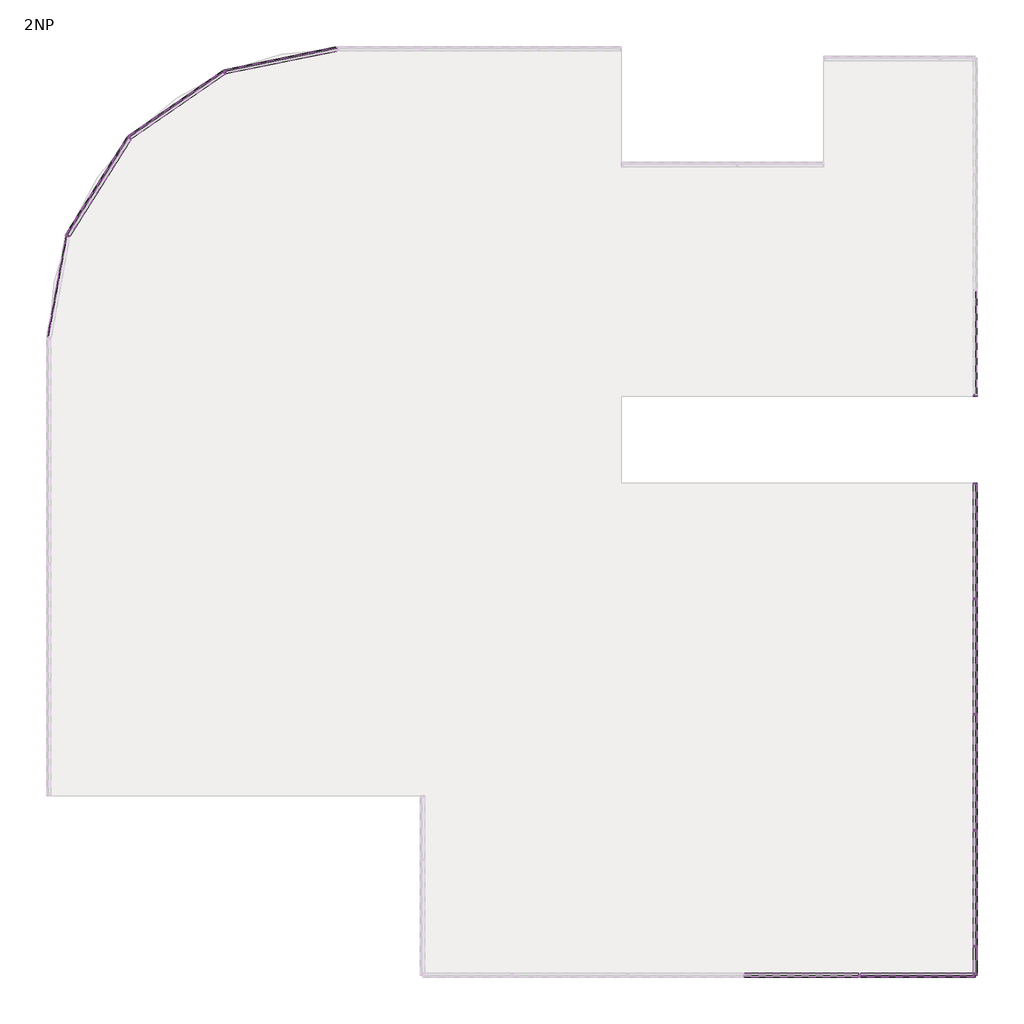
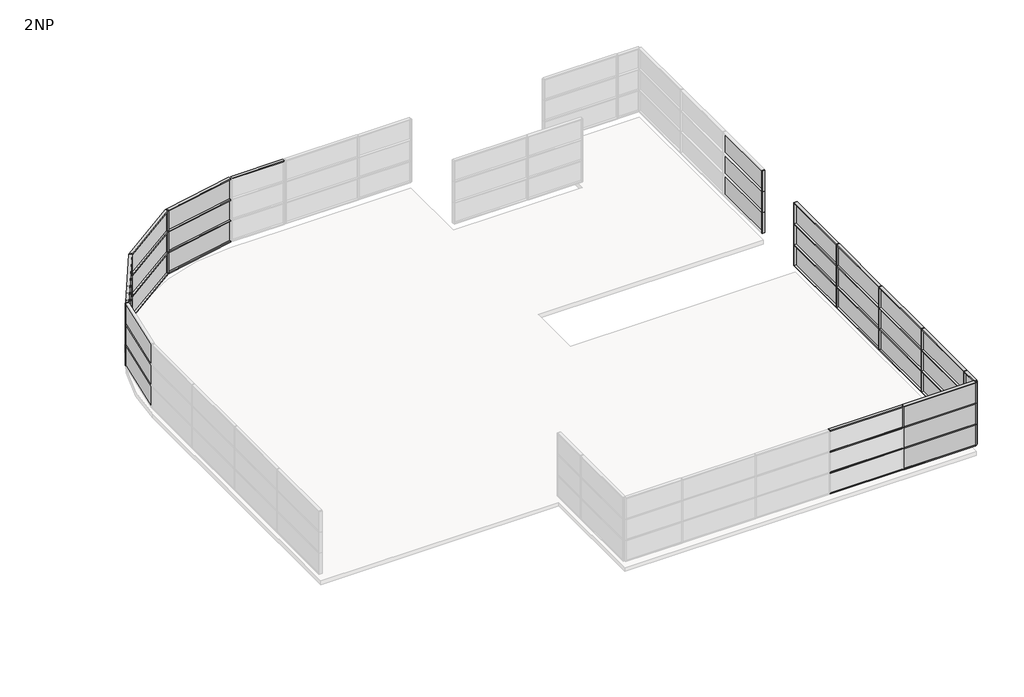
# One storey, part 2 of 4: 75 members, 33 plates.
"""IFC4 building model written with IfcOpenShell, lengths in millimetres."""

from ifc_helpers import new_model, si_unit, origin, place, context, project, spatial, transform, mapped, element, save
from components import rectangular_mullion_50_x_150mm_d99dc9be, rectangular_mullion_50_x_150mm_6588f46c, rectangular_mullion_50_x_150mm_a037c29c, rectangular_mullion_50_x_150mm_c2546fd4, rectangular_mullion_50_x_150mm_116cff39, rectangular_mullion_50_x_150mm_6d604593, rectangular_mullion_50_x_150mm_99029072, rectangular_mullion_50_x_150mm_662445cf, system_panel_glazed_8e9402eb, system_panel_glazed_89ac83a7, system_panel_glazed_5566c609, system_panel_glazed_8c18451d, system_panel_glazed_f47374c1, system_panel_glazed_c3dc520e, system_panel_glazed_01c601c5

model = new_model("IFC4")

# Units and contexts
model_context = context("Model", 3, world=origin())
ifc_project = project(units=[si_unit("LENGTHUNIT", "METRE", prefix="MILLI")], contexts=[model_context])

# Site, building, storey
site = spatial("IfcSite", under=ifc_project)
building = spatial("IfcBuilding", under=site)
storey = spatial("IfcBuildingStorey", under=building, Name="2NP", Elevation=8000.0)

# Members
placement = place(None, origin())
rectangular_mullion_50_x_150mm_shape = rectangular_mullion_50_x_150mm_d99dc9be(model_context)
element("IfcMember", 1, ObjectType="Rectangular Mullion : 50 x 150mm", at=placement, inside=storey, context=model_context, shape_type="MappedRepresentation", body=[
    mapped(rectangular_mullion_50_x_150mm_shape, transform((13503.2660975, -10624.0160434, 9600.0), x_axis=(0.0, -1.0, 0.0), y_axis=(1.0, 0.0, 0.0), z_axis=(0.0, 0.0, 1.0))),
])
element("IfcMember", 2, ObjectType="Rectangular Mullion : 50 x 150mm", at=placement, inside=storey, context=model_context, shape_type="MappedRepresentation", body=[
    mapped(rectangular_mullion_50_x_150mm_shape, transform((13503.2660975, -10624.0160434, 10800.0), x_axis=(0.0, -1.0, 0.0), y_axis=(1.0, 0.0, 0.0), z_axis=(0.0, 0.0, 1.0))),
])
element("IfcMember", 3, ObjectType="Rectangular Mullion : 50 x 150mm", at=placement, inside=storey, context=model_context, shape_type="MappedRepresentation", body=[
    mapped(rectangular_mullion_50_x_150mm_shape, transform((13503.2660975, -10624.0160434, 12000.0), x_axis=(0.0, -1.0, 0.0), y_axis=(1.0, 0.0, 0.0), z_axis=(0.0, 0.0, 1.0))),
])
element("IfcMember", 4, ObjectType="Rectangular Mullion : 50 x 150mm", at=placement, inside=storey, context=model_context, shape_type="MappedRepresentation", body=[
    mapped(rectangular_mullion_50_x_150mm_shape, transform((13503.2660975, -14624.0160434, 9600.0), x_axis=(0.0, -1.0, 0.0), y_axis=(1.0, 0.0, 0.0), z_axis=(0.0, 0.0, 1.0))),
])
element("IfcMember", 5, ObjectType="Rectangular Mullion : 50 x 150mm", at=placement, inside=storey, context=model_context, shape_type="MappedRepresentation", body=[
    mapped(rectangular_mullion_50_x_150mm_shape, transform((13503.2660975, -14624.0160434, 10800.0), x_axis=(0.0, -1.0, 0.0), y_axis=(1.0, 0.0, 0.0), z_axis=(0.0, 0.0, 1.0))),
])
element("IfcMember", 6, ObjectType="Rectangular Mullion : 50 x 150mm", at=placement, inside=storey, context=model_context, shape_type="MappedRepresentation", body=[
    mapped(rectangular_mullion_50_x_150mm_shape, transform((13503.2660975, -14624.0160434, 12000.0), x_axis=(0.0, -1.0, 0.0), y_axis=(1.0, 0.0, 0.0), z_axis=(0.0, 0.0, 1.0))),
])
element("IfcMember", 7, ObjectType="Rectangular Mullion : 50 x 150mm", at=placement, inside=storey, context=model_context, shape_type="MappedRepresentation", body=[
    mapped(rectangular_mullion_50_x_150mm_shape, transform((13503.2660975, -18624.0160434, 9600.0), x_axis=(0.0, -1.0, 0.0), y_axis=(1.0, 0.0, 0.0), z_axis=(0.0, 0.0, 1.0))),
])
element("IfcMember", 8, ObjectType="Rectangular Mullion : 50 x 150mm", at=placement, inside=storey, context=model_context, shape_type="MappedRepresentation", body=[
    mapped(rectangular_mullion_50_x_150mm_shape, transform((13503.2660975, -18624.0160434, 10800.0), x_axis=(0.0, -1.0, 0.0), y_axis=(1.0, 0.0, 0.0), z_axis=(0.0, 0.0, 1.0))),
])
element("IfcMember", 9, ObjectType="Rectangular Mullion : 50 x 150mm", at=placement, inside=storey, context=model_context, shape_type="MappedRepresentation", body=[
    mapped(rectangular_mullion_50_x_150mm_shape, transform((13503.2660975, -18624.0160434, 12000.0), x_axis=(0.0, -1.0, 0.0), y_axis=(1.0, 0.0, 0.0), z_axis=(0.0, 0.0, 1.0))),
])
element("IfcMember", 10, ObjectType="Rectangular Mullion : 50 x 150mm", at=placement, inside=storey, context=model_context, shape_type="MappedRepresentation", body=[
    mapped(rectangular_mullion_50_x_150mm_shape, transform((13503.2660975, -22624.0160434, 9600.0), x_axis=(0.0, -1.0, 0.0), y_axis=(1.0, 0.0, 0.0), z_axis=(0.0, 0.0, 1.0))),
])
element("IfcMember", 11, ObjectType="Rectangular Mullion : 50 x 150mm", at=placement, inside=storey, context=model_context, shape_type="MappedRepresentation", body=[
    mapped(rectangular_mullion_50_x_150mm_shape, transform((13503.2660975, -22624.0160434, 10800.0), x_axis=(0.0, -1.0, 0.0), y_axis=(1.0, 0.0, 0.0), z_axis=(0.0, 0.0, 1.0))),
])
element("IfcMember", 12, ObjectType="Rectangular Mullion : 50 x 150mm", at=placement, inside=storey, context=model_context, shape_type="MappedRepresentation", body=[
    mapped(rectangular_mullion_50_x_150mm_shape, transform((13503.2660975, -22624.0160434, 12000.0), x_axis=(0.0, -1.0, 0.0), y_axis=(1.0, 0.0, 0.0), z_axis=(0.0, 0.0, 1.0))),
])
element("IfcMember", 13, ObjectType="Rectangular Mullion : 50 x 150mm", at=placement, inside=storey, context=model_context, shape_type="MappedRepresentation", body=[
    mapped(rectangular_mullion_50_x_150mm_shape, transform((9503.2660975, -23624.0160434, 12000.0), x_axis=(-1.0, 0.0, 0.0), y_axis=(0.0, -1.0, 0.0), z_axis=(0.0, 0.0, 1.0))),
])
rectangular_mullion_50_x_150mm_2_shape = rectangular_mullion_50_x_150mm_6588f46c(model_context)
element("IfcMember", 14, ObjectType="Rectangular Mullion : 50 x 150mm", at=placement, inside=storey, context=model_context, shape_type="MappedRepresentation", body=[
    mapped(rectangular_mullion_50_x_150mm_2_shape, transform((13503.2660975, -3624.0160434, 12000.0), x_axis=(0.0, -1.0, 0.0), y_axis=(1.0, 0.0, 0.0), z_axis=(0.0, 0.0, 1.0))),
])
element("IfcMember", 15, ObjectType="Rectangular Mullion : 50 x 150mm", at=placement, inside=storey, context=model_context, shape_type="MappedRepresentation", body=[
    mapped(rectangular_mullion_50_x_150mm_2_shape, transform((13503.2660975, -3624.0160434, 10800.0), x_axis=(0.0, -1.0, 0.0), y_axis=(1.0, 0.0, 0.0), z_axis=(0.0, 0.0, 1.0))),
])
element("IfcMember", 16, ObjectType="Rectangular Mullion : 50 x 150mm", at=placement, inside=storey, context=model_context, shape_type="MappedRepresentation", body=[
    mapped(rectangular_mullion_50_x_150mm_2_shape, transform((13503.2660975, -3624.0160434, 9600.0), x_axis=(0.0, -1.0, 0.0), y_axis=(1.0, 0.0, 0.0), z_axis=(0.0, 0.0, 1.0))),
])
element("IfcMember", 17, ObjectType="Rectangular Mullion : 50 x 150mm", at=placement, inside=storey, context=model_context, shape_type="MappedRepresentation", body=[
    mapped(rectangular_mullion_50_x_150mm_2_shape, transform((13503.2660975, -23624.0160434, 9600.0), x_axis=(0.0, -1.0, 0.0), y_axis=(1.0, 0.0, 0.0), z_axis=(0.0, 0.0, 1.0))),
])
element("IfcMember", 18, ObjectType="Rectangular Mullion : 50 x 150mm", at=placement, inside=storey, context=model_context, shape_type="MappedRepresentation", body=[
    mapped(rectangular_mullion_50_x_150mm_2_shape, transform((13503.2660975, -23624.0160434, 10800.0), x_axis=(0.0, -1.0, 0.0), y_axis=(1.0, 0.0, 0.0), z_axis=(0.0, 0.0, 1.0))),
])
element("IfcMember", 19, ObjectType="Rectangular Mullion : 50 x 150mm", at=placement, inside=storey, context=model_context, shape_type="MappedRepresentation", body=[
    mapped(rectangular_mullion_50_x_150mm_2_shape, transform((13503.2660975, -23624.0160434, 12000.0), x_axis=(0.0, -1.0, 0.0), y_axis=(1.0, 0.0, 0.0), z_axis=(0.0, 0.0, 1.0))),
])
rectangular_mullion_50_x_150mm_3_shape = rectangular_mullion_50_x_150mm_a037c29c(model_context)
element("IfcMember", 20, ObjectType="Rectangular Mullion : 50 x 150mm", at=placement, inside=storey, context=model_context, shape_type="MappedRepresentation", body=[
    mapped(rectangular_mullion_50_x_150mm_3_shape, transform((13503.2660975, -10649.0160434, 8400.0), x_axis=(0.0, 0.0, 1.0), y_axis=(1.0, 0.0, 0.0), z_axis=(0.0, 1.0, 0.0))),
])
element("IfcMember", 21, ObjectType="Rectangular Mullion : 50 x 150mm", at=placement, inside=storey, context=model_context, shape_type="MappedRepresentation", body=[
    mapped(rectangular_mullion_50_x_150mm_3_shape, transform((13503.2660975, -14649.0160434, 8400.0), x_axis=(0.0, 0.0, 1.0), y_axis=(1.0, 0.0, 0.0), z_axis=(0.0, 1.0, 0.0))),
])
element("IfcMember", 22, ObjectType="Rectangular Mullion : 50 x 150mm", at=placement, inside=storey, context=model_context, shape_type="MappedRepresentation", body=[
    mapped(rectangular_mullion_50_x_150mm_3_shape, transform((13503.2660975, -18649.0160434, 8400.0), x_axis=(0.0, 0.0, 1.0), y_axis=(1.0, 0.0, 0.0), z_axis=(0.0, 1.0, 0.0))),
])
element("IfcMember", 23, ObjectType="Rectangular Mullion : 50 x 150mm", at=placement, inside=storey, context=model_context, shape_type="MappedRepresentation", body=[
    mapped(rectangular_mullion_50_x_150mm_3_shape, transform((13503.2660975, -10649.0160434, 9600.0), x_axis=(0.0, 0.0, 1.0), y_axis=(1.0, 0.0, 0.0), z_axis=(0.0, 1.0, 0.0))),
])
element("IfcMember", 24, ObjectType="Rectangular Mullion : 50 x 150mm", at=placement, inside=storey, context=model_context, shape_type="MappedRepresentation", body=[
    mapped(rectangular_mullion_50_x_150mm_3_shape, transform((13503.2660975, -14649.0160434, 9600.0), x_axis=(0.0, 0.0, 1.0), y_axis=(1.0, 0.0, 0.0), z_axis=(0.0, 1.0, 0.0))),
])
element("IfcMember", 25, ObjectType="Rectangular Mullion : 50 x 150mm", at=placement, inside=storey, context=model_context, shape_type="MappedRepresentation", body=[
    mapped(rectangular_mullion_50_x_150mm_3_shape, transform((13503.2660975, -18649.0160434, 9600.0), x_axis=(0.0, 0.0, 1.0), y_axis=(1.0, 0.0, 0.0), z_axis=(0.0, 1.0, 0.0))),
])
element("IfcMember", 26, ObjectType="Rectangular Mullion : 50 x 150mm", at=placement, inside=storey, context=model_context, shape_type="MappedRepresentation", body=[
    mapped(rectangular_mullion_50_x_150mm_3_shape, transform((13503.2660975, -10649.0160434, 10800.0), x_axis=(0.0, 0.0, 1.0), y_axis=(1.0, 0.0, 0.0), z_axis=(0.0, 1.0, 0.0))),
])
element("IfcMember", 27, ObjectType="Rectangular Mullion : 50 x 150mm", at=placement, inside=storey, context=model_context, shape_type="MappedRepresentation", body=[
    mapped(rectangular_mullion_50_x_150mm_3_shape, transform((13503.2660975, -14649.0160434, 10800.0), x_axis=(0.0, 0.0, 1.0), y_axis=(1.0, 0.0, 0.0), z_axis=(0.0, 1.0, 0.0))),
])
element("IfcMember", 28, ObjectType="Rectangular Mullion : 50 x 150mm", at=placement, inside=storey, context=model_context, shape_type="MappedRepresentation", body=[
    mapped(rectangular_mullion_50_x_150mm_3_shape, transform((13503.2660975, -18649.0160434, 10800.0), x_axis=(0.0, 0.0, 1.0), y_axis=(1.0, 0.0, 0.0), z_axis=(0.0, 1.0, 0.0))),
])
element("IfcMember", 29, ObjectType="Rectangular Mullion : 50 x 150mm", at=placement, inside=storey, context=model_context, shape_type="MappedRepresentation", body=[
    mapped(rectangular_mullion_50_x_150mm_3_shape, transform((13503.2660975, -10649.0160434, 12000.0), x_axis=(0.0, 0.0, 1.0), y_axis=(1.0, 0.0, 0.0), z_axis=(0.0, 1.0, 0.0))),
])
element("IfcMember", 30, ObjectType="Rectangular Mullion : 50 x 150mm", at=placement, inside=storey, context=model_context, shape_type="MappedRepresentation", body=[
    mapped(rectangular_mullion_50_x_150mm_3_shape, transform((13503.2660975, -14649.0160434, 12000.0), x_axis=(0.0, 0.0, 1.0), y_axis=(1.0, 0.0, 0.0), z_axis=(0.0, 1.0, 0.0))),
])
element("IfcMember", 31, ObjectType="Rectangular Mullion : 50 x 150mm", at=placement, inside=storey, context=model_context, shape_type="MappedRepresentation", body=[
    mapped(rectangular_mullion_50_x_150mm_3_shape, transform((13503.2660975, -18649.0160434, 12000.0), x_axis=(0.0, 0.0, 1.0), y_axis=(1.0, 0.0, 0.0), z_axis=(0.0, 1.0, 0.0))),
])
element("IfcMember", 32, ObjectType="Rectangular Mullion : 50 x 150mm", at=placement, inside=storey, context=model_context, shape_type="MappedRepresentation", body=[
    mapped(rectangular_mullion_50_x_150mm_3_shape, transform((9478.2660975, -23624.0160434, 9600.0), x_axis=(0.0, 0.0, 1.0), y_axis=(0.0, -1.0, 0.0), z_axis=(1.0, 0.0, 0.0))),
])
element("IfcMember", 33, ObjectType="Rectangular Mullion : 50 x 150mm", at=placement, inside=storey, context=model_context, shape_type="MappedRepresentation", body=[
    mapped(rectangular_mullion_50_x_150mm_3_shape, transform((9478.2660975, -23624.0160434, 10800.0), x_axis=(0.0, 0.0, 1.0), y_axis=(0.0, -1.0, 0.0), z_axis=(1.0, 0.0, 0.0))),
])
element("IfcMember", 34, ObjectType="Rectangular Mullion : 50 x 150mm", at=placement, inside=storey, context=model_context, shape_type="MappedRepresentation", body=[
    mapped(rectangular_mullion_50_x_150mm_3_shape, transform((9478.2660975, -23624.0160434, 12000.0), x_axis=(0.0, 0.0, 1.0), y_axis=(0.0, -1.0, 0.0), z_axis=(1.0, 0.0, 0.0))),
])
element("IfcMember", 35, ObjectType="Rectangular Mullion : 50 x 150mm", at=placement, inside=storey, context=model_context, shape_type="MappedRepresentation", body=[
    mapped(rectangular_mullion_50_x_150mm_3_shape, transform((9478.2660975, -23624.0160434, 8400.0), x_axis=(0.0, 0.0, 1.0), y_axis=(0.0, -1.0, 0.0), z_axis=(1.0, 0.0, 0.0))),
])
rectangular_mullion_50_x_150mm_4_shape = rectangular_mullion_50_x_150mm_c2546fd4(model_context)
element("IfcMember", 36, ObjectType="Rectangular Mullion : 50 x 150mm", at=placement, inside=storey, context=model_context, shape_type="MappedRepresentation", body=[
    mapped(rectangular_mullion_50_x_150mm_4_shape, transform((13503.2660975, -6674.0160434, 8400.0), x_axis=(0.0, 0.0, 1.0), y_axis=(1.0, 0.0, 0.0), z_axis=(0.0, 1.0, 0.0))),
])
element("IfcMember", 37, ObjectType="Rectangular Mullion : 50 x 150mm", at=placement, inside=storey, context=model_context, shape_type="MappedRepresentation", body=[
    mapped(rectangular_mullion_50_x_150mm_4_shape, transform((13503.2660975, -6674.0160434, 9600.0), x_axis=(0.0, 0.0, 1.0), y_axis=(1.0, 0.0, 0.0), z_axis=(0.0, 1.0, 0.0))),
])
element("IfcMember", 38, ObjectType="Rectangular Mullion : 50 x 150mm", at=placement, inside=storey, context=model_context, shape_type="MappedRepresentation", body=[
    mapped(rectangular_mullion_50_x_150mm_4_shape, transform((13503.2660975, -6674.0160434, 10800.0), x_axis=(0.0, 0.0, 1.0), y_axis=(1.0, 0.0, 0.0), z_axis=(0.0, 1.0, 0.0))),
])
element("IfcMember", 39, ObjectType="Rectangular Mullion : 50 x 150mm", at=placement, inside=storey, context=model_context, shape_type="MappedRepresentation", body=[
    mapped(rectangular_mullion_50_x_150mm_4_shape, transform((13503.2660975, -6674.0160434, 12000.0), x_axis=(0.0, 0.0, 1.0), y_axis=(1.0, 0.0, 0.0), z_axis=(0.0, 1.0, 0.0))),
])
element("IfcMember", 40, ObjectType="Rectangular Mullion : 50 x 150mm", at=placement, inside=storey, context=model_context, shape_type="MappedRepresentation", body=[
    mapped(rectangular_mullion_50_x_150mm_4_shape, transform((13453.2660975, -23624.0160434, 9600.0), x_axis=(0.0, 0.0, 1.0), y_axis=(0.0, -1.0, 0.0), z_axis=(1.0, 0.0, 0.0))),
])
element("IfcMember", 41, ObjectType="Rectangular Mullion : 50 x 150mm", at=placement, inside=storey, context=model_context, shape_type="MappedRepresentation", body=[
    mapped(rectangular_mullion_50_x_150mm_4_shape, transform((13453.2660975, -23624.0160434, 10800.0), x_axis=(0.0, 0.0, 1.0), y_axis=(0.0, -1.0, 0.0), z_axis=(1.0, 0.0, 0.0))),
])
element("IfcMember", 42, ObjectType="Rectangular Mullion : 50 x 150mm", at=placement, inside=storey, context=model_context, shape_type="MappedRepresentation", body=[
    mapped(rectangular_mullion_50_x_150mm_4_shape, transform((13453.2660975, -23624.0160434, 12000.0), x_axis=(0.0, 0.0, 1.0), y_axis=(0.0, -1.0, 0.0), z_axis=(1.0, 0.0, 0.0))),
])
element("IfcMember", 43, ObjectType="Rectangular Mullion : 50 x 150mm", at=placement, inside=storey, context=model_context, shape_type="MappedRepresentation", body=[
    mapped(rectangular_mullion_50_x_150mm_4_shape, transform((13453.2660975, -23624.0160434, 8400.0), x_axis=(0.0, 0.0, 1.0), y_axis=(0.0, -1.0, 0.0), z_axis=(1.0, 0.0, 0.0))),
])
element("IfcMember", 44, ObjectType="Rectangular Mullion : 50 x 150mm", at=placement, inside=storey, context=model_context, shape_type="MappedRepresentation", body=[
    mapped(rectangular_mullion_50_x_150mm_2_shape, transform((13503.2660975, -6624.0160434, 8400.0), x_axis=(0.0, 1.0, 0.0), y_axis=(1.0, 0.0, 0.0), z_axis=(0.0, 0.0, -1.0))),
])
element("IfcMember", 45, ObjectType="Rectangular Mullion : 50 x 150mm", at=placement, inside=storey, context=model_context, shape_type="MappedRepresentation", body=[
    mapped(rectangular_mullion_50_x_150mm_2_shape, transform((13503.2660975, -6624.0160434, 9600.0), x_axis=(0.0, 1.0, 0.0), y_axis=(1.0, 0.0, 0.0), z_axis=(0.0, 0.0, -1.0))),
])
element("IfcMember", 46, ObjectType="Rectangular Mullion : 50 x 150mm", at=placement, inside=storey, context=model_context, shape_type="MappedRepresentation", body=[
    mapped(rectangular_mullion_50_x_150mm_2_shape, transform((13503.2660975, -6624.0160434, 10800.0), x_axis=(0.0, 1.0, 0.0), y_axis=(1.0, 0.0, 0.0), z_axis=(0.0, 0.0, -1.0))),
])
element("IfcMember", 47, ObjectType="Rectangular Mullion : 50 x 150mm", at=placement, inside=storey, context=model_context, shape_type="MappedRepresentation", body=[
    mapped(rectangular_mullion_50_x_150mm_2_shape, transform((13503.2660975, -23624.0160434, 8400.0), x_axis=(1.0, 0.0, 0.0), y_axis=(0.0, -1.0, 0.0), z_axis=(0.0, 0.0, -1.0))),
])
element("IfcMember", 48, ObjectType="Rectangular Mullion : 50 x 150mm", at=placement, inside=storey, context=model_context, shape_type="MappedRepresentation", body=[
    mapped(rectangular_mullion_50_x_150mm_2_shape, transform((13503.2660975, -23624.0160434, 9600.0), x_axis=(1.0, 0.0, 0.0), y_axis=(0.0, -1.0, 0.0), z_axis=(0.0, 0.0, -1.0))),
])
element("IfcMember", 49, ObjectType="Rectangular Mullion : 50 x 150mm", at=placement, inside=storey, context=model_context, shape_type="MappedRepresentation", body=[
    mapped(rectangular_mullion_50_x_150mm_2_shape, transform((13503.2660975, -23624.0160434, 10800.0), x_axis=(1.0, 0.0, 0.0), y_axis=(0.0, -1.0, 0.0), z_axis=(0.0, 0.0, -1.0))),
])
rectangular_mullion_50_x_150mm_5_shape = rectangular_mullion_50_x_150mm_116cff39(model_context)
element("IfcMember", 50, ObjectType="Rectangular Mullion : 50 x 150mm", at=placement, inside=storey, context=model_context, shape_type="MappedRepresentation", body=[
    mapped(rectangular_mullion_50_x_150mm_5_shape, transform((13503.2660975, -22649.0160434, 8400.0), x_axis=(0.0, 0.0, 1.0), y_axis=(1.0, 0.0, 0.0), z_axis=(0.0, 1.0, 0.0))),
])
element("IfcMember", 51, ObjectType="Rectangular Mullion : 50 x 150mm", at=placement, inside=storey, context=model_context, shape_type="MappedRepresentation", body=[
    mapped(rectangular_mullion_50_x_150mm_5_shape, transform((13503.2660975, -22649.0160434, 9600.0), x_axis=(0.0, 0.0, 1.0), y_axis=(1.0, 0.0, 0.0), z_axis=(0.0, 1.0, 0.0))),
])
element("IfcMember", 52, ObjectType="Rectangular Mullion : 50 x 150mm", at=placement, inside=storey, context=model_context, shape_type="MappedRepresentation", body=[
    mapped(rectangular_mullion_50_x_150mm_5_shape, transform((13503.2660975, -22649.0160434, 10800.0), x_axis=(0.0, 0.0, 1.0), y_axis=(1.0, 0.0, 0.0), z_axis=(0.0, 1.0, 0.0))),
])
element("IfcMember", 53, ObjectType="Rectangular Mullion : 50 x 150mm", at=placement, inside=storey, context=model_context, shape_type="MappedRepresentation", body=[
    mapped(rectangular_mullion_50_x_150mm_5_shape, transform((13503.2660975, -22649.0160434, 12000.0), x_axis=(0.0, 0.0, 1.0), y_axis=(1.0, 0.0, 0.0), z_axis=(0.0, 1.0, 0.0))),
])
rectangular_mullion_50_x_150mm_6_shape = rectangular_mullion_50_x_150mm_6d604593(model_context)
element("IfcMember", 54, ObjectType="Rectangular Mullion : 50 x 150mm", at=placement, inside=storey, context=model_context, shape_type="MappedRepresentation", body=[
    mapped(rectangular_mullion_50_x_150mm_6_shape, transform((-8446.7339025, 8375.9839566, 12000.0), x_axis=(0.0, 0.0, 1.0), y_axis=(0.0, 1.0, 0.0), z_axis=(-1.0, 0.0, 0.0))),
])
rectangular_mullion_50_x_150mm_7_shape = rectangular_mullion_50_x_150mm_99029072(model_context)
element("IfcMember", 55, ObjectType="Rectangular Mullion : 50 x 150mm", at=placement, inside=storey, context=model_context, shape_type="MappedRepresentation", body=[
    mapped(rectangular_mullion_50_x_150mm_7_shape, transform((-15687.4559914, 5318.1839566, 10800.0), x_axis=(0.0, 0.0, 1.0), y_axis=(-0.5680000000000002, 0.8230285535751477, 0.0), z_axis=(-0.8230285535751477, -0.5680000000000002, 0.0))),
])
element("IfcMember", 56, ObjectType="Rectangular Mullion : 50 x 150mm", at=placement, inside=storey, context=model_context, shape_type="MappedRepresentation", body=[
    mapped(rectangular_mullion_50_x_150mm_7_shape, transform((-17832.9738551, 1944.6319566, 10800.0), x_axis=(0.0, 0.0, 1.0), y_axis=(-0.84512, 0.534576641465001, 0.0), z_axis=(-0.534576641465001, -0.84512, 0.0))),
])
element("IfcMember", 57, ObjectType="Rectangular Mullion : 50 x 150mm", at=placement, inside=storey, context=model_context, shape_type="MappedRepresentation", body=[
    mapped(rectangular_mullion_50_x_150mm_7_shape, transform((-15687.4559914, 5318.1839566, 8400.0), x_axis=(0.0, 0.0, 1.0), y_axis=(-0.5680000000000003, 0.8230285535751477, 0.0), z_axis=(-0.8230285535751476, -0.5680000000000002, 0.0))),
])
element("IfcMember", 58, ObjectType="Rectangular Mullion : 50 x 150mm", at=placement, inside=storey, context=model_context, shape_type="MappedRepresentation", body=[
    mapped(rectangular_mullion_50_x_150mm_7_shape, transform((-17832.9738551, 1944.6319566, 8400.0), x_axis=(0.0, 0.0, 1.0), y_axis=(-0.84512, 0.534576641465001, 0.0), z_axis=(-0.534576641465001, -0.84512, 0.0))),
])
element("IfcMember", 59, ObjectType="Rectangular Mullion : 50 x 150mm", at=placement, inside=storey, context=model_context, shape_type="MappedRepresentation", body=[
    mapped(rectangular_mullion_50_x_150mm_7_shape, transform((-15687.4559914, 5318.1839566, 9600.0), x_axis=(0.0, 0.0, 1.0), y_axis=(-0.5680000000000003, 0.8230285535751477, 0.0), z_axis=(-0.8230285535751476, -0.5680000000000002, 0.0))),
])
element("IfcMember", 60, ObjectType="Rectangular Mullion : 50 x 150mm", at=placement, inside=storey, context=model_context, shape_type="MappedRepresentation", body=[
    mapped(rectangular_mullion_50_x_150mm_7_shape, transform((-17832.9738551, 1944.6319566, 9600.0), x_axis=(0.0, 0.0, 1.0), y_axis=(-0.84512, 0.534576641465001, 0.0), z_axis=(-0.534576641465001, -0.84512, 0.0))),
])
rectangular_mullion_50_x_150mm_8_shape = rectangular_mullion_50_x_150mm_662445cf(model_context)
element("IfcMember", 61, ObjectType="Rectangular Mullion : 50 x 150mm", at=placement, inside=storey, context=model_context, shape_type="MappedRepresentation", body=[
    mapped(rectangular_mullion_50_x_150mm_8_shape, transform((-12391.4225935, 7580.9839566, 10800.0), x_axis=(0.0, 0.0, 1.0), y_axis=(-0.19999999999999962, 0.9797958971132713, 0.0), z_axis=(-0.9797958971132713, -0.19999999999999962, 0.0))),
])
element("IfcMember", 62, ObjectType="Rectangular Mullion : 50 x 150mm", at=placement, inside=storey, context=model_context, shape_type="MappedRepresentation", body=[
    mapped(rectangular_mullion_50_x_150mm_8_shape, transform((-12391.4225935, 7580.9839566, 8400.0), x_axis=(0.0, 0.0, 1.0), y_axis=(-0.19999999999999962, 0.9797958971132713, 0.0), z_axis=(-0.9797958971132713, -0.19999999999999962, 0.0))),
])
element("IfcMember", 63, ObjectType="Rectangular Mullion : 50 x 150mm", at=placement, inside=storey, context=model_context, shape_type="MappedRepresentation", body=[
    mapped(rectangular_mullion_50_x_150mm_8_shape, transform((-12391.4225935, 7580.9839566, 9600.0), x_axis=(0.0, 0.0, 1.0), y_axis=(-0.19999999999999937, 0.9797958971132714, 0.0), z_axis=(-0.9797958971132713, -0.19999999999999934, 0.0))),
])
element("IfcMember", 64, ObjectType="Rectangular Mullion : 50 x 150mm", at=placement, inside=storey, context=model_context, shape_type="MappedRepresentation", body=[
    mapped(rectangular_mullion_50_x_150mm_8_shape, transform((-12391.4225935, 7580.9839566, 12000.0), x_axis=(0.0, 0.0, 1.0), y_axis=(-0.19999999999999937, 0.9797958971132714, 0.0), z_axis=(-0.9797958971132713, -0.19999999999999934, 0.0))),
])
element("IfcMember", 65, ObjectType="Rectangular Mullion : 50 x 150mm", at=placement, inside=storey, context=model_context, shape_type="MappedRepresentation", body=[
    mapped(rectangular_mullion_50_x_150mm_7_shape, transform((-15687.4559914, 5318.1839566, 12000.0), x_axis=(0.0, 0.0, 1.0), y_axis=(-0.5680000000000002, 0.8230285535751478, 0.0), z_axis=(-0.8230285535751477, -0.5680000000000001, 0.0))),
])
element("IfcMember", 66, ObjectType="Rectangular Mullion : 50 x 150mm", at=placement, inside=storey, context=model_context, shape_type="MappedRepresentation", body=[
    mapped(rectangular_mullion_50_x_150mm_7_shape, transform((-17832.9738551, 1944.6319566, 12000.0), x_axis=(0.0, 0.0, 1.0), y_axis=(-0.84512, 0.534576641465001, 0.0), z_axis=(-0.534576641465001, -0.84512, 0.0))),
])
element("IfcMember", 67, ObjectType="Rectangular Mullion : 50 x 150mm", at=placement, inside=storey, context=model_context, shape_type="MappedRepresentation", body=[
    mapped(rectangular_mullion_50_x_150mm_shape, transform((-12415.9174909, 7575.9839566, 8400.0), x_axis=(-0.92, -0.3919183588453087, 0.0), y_axis=(-0.3919183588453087, 0.92, 0.0), z_axis=(0.0, 0.0, -1.0))),
])
element("IfcMember", 68, ObjectType="Rectangular Mullion : 50 x 150mm", at=placement, inside=storey, context=model_context, shape_type="MappedRepresentation", body=[
    mapped(rectangular_mullion_50_x_150mm_shape, transform((-12415.9174909, 7575.9839566, 9600.0), x_axis=(-0.92, -0.3919183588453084, 0.0), y_axis=(-0.3919183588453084, 0.92, 0.0), z_axis=(0.0, 0.0, -1.0))),
])
element("IfcMember", 69, ObjectType="Rectangular Mullion : 50 x 150mm", at=placement, inside=storey, context=model_context, shape_type="MappedRepresentation", body=[
    mapped(rectangular_mullion_50_x_150mm_shape, transform((-12415.9174909, 7575.9839566, 10800.0), x_axis=(-0.9200000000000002, -0.3919183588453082, 0.0), y_axis=(-0.3919183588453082, 0.9200000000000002, 0.0), z_axis=(0.0, 0.0, -1.0))),
])
element("IfcMember", 70, ObjectType="Rectangular Mullion : 50 x 150mm", at=placement, inside=storey, context=model_context, shape_type="MappedRepresentation", body=[
    mapped(rectangular_mullion_50_x_150mm_shape, transform((-15708.0317052, 5303.9839566, 8400.0), x_axis=(-0.6927999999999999, -0.7211297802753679, 0.0), y_axis=(-0.7211297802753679, 0.6927999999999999, 0.0), z_axis=(0.0, 0.0, -1.0))),
])
element("IfcMember", 71, ObjectType="Rectangular Mullion : 50 x 150mm", at=placement, inside=storey, context=model_context, shape_type="MappedRepresentation", body=[
    mapped(rectangular_mullion_50_x_150mm_shape, transform((-15708.0317052, 5303.9839566, 9600.0), x_axis=(-0.6927999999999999, -0.7211297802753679, 0.0), y_axis=(-0.7211297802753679, 0.6927999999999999, 0.0), z_axis=(0.0, 0.0, -1.0))),
])
element("IfcMember", 72, ObjectType="Rectangular Mullion : 50 x 150mm", at=placement, inside=storey, context=model_context, shape_type="MappedRepresentation", body=[
    mapped(rectangular_mullion_50_x_150mm_shape, transform((-15708.0317052, 5303.9839566, 10800.0), x_axis=(-0.6927999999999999, -0.7211297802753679, 0.0), y_axis=(-0.7211297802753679, 0.6927999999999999, 0.0), z_axis=(0.0, 0.0, -1.0))),
])
element("IfcMember", 73, ObjectType="Rectangular Mullion : 50 x 150mm", at=placement, inside=storey, context=model_context, shape_type="MappedRepresentation", body=[
    mapped(rectangular_mullion_50_x_150mm_shape, transform((-17846.3382711, 1923.5039566, 8400.0), x_axis=(-0.35475199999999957, -0.9349604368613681, 0.0), y_axis=(-0.9349604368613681, 0.35475199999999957, 0.0), z_axis=(0.0, 0.0, -1.0))),
])
element("IfcMember", 74, ObjectType="Rectangular Mullion : 50 x 150mm", at=placement, inside=storey, context=model_context, shape_type="MappedRepresentation", body=[
    mapped(rectangular_mullion_50_x_150mm_shape, transform((-17846.3382711, 1923.5039566, 9600.0), x_axis=(-0.35475199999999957, -0.9349604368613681, 0.0), y_axis=(-0.9349604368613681, 0.35475199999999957, 0.0), z_axis=(0.0, 0.0, -1.0))),
])
element("IfcMember", 75, ObjectType="Rectangular Mullion : 50 x 150mm", at=placement, inside=storey, context=model_context, shape_type="MappedRepresentation", body=[
    mapped(rectangular_mullion_50_x_150mm_shape, transform((-17846.3382711, 1923.5039566, 10800.0), x_axis=(-0.35475199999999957, -0.9349604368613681, 0.0), y_axis=(-0.9349604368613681, 0.35475199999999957, 0.0), z_axis=(0.0, 0.0, -1.0))),
])

# Plates
system_panel_glazed_shape = system_panel_glazed_8e9402eb(model_context)
element("IfcPlate", 76, ObjectType="System Panel : Glazed", at=placement, inside=storey, context=model_context, shape_type="MappedRepresentation", body=[
    mapped(system_panel_glazed_shape, transform((11490.7660975, -23624.0160434, 8425.0), x_axis=(-1.0, 0.0, 0.0), y_axis=(0.0, -1.0, 0.0), z_axis=(0.0, 0.0, 1.0))),
])
element("IfcPlate", 77, ObjectType="System Panel : Glazed", at=placement, inside=storey, context=model_context, shape_type="MappedRepresentation", body=[
    mapped(system_panel_glazed_shape, transform((11490.7660975, -23624.0160434, 9625.0), x_axis=(-1.0, 0.0, 0.0), y_axis=(0.0, -1.0, 0.0), z_axis=(0.0, 0.0, 1.0))),
])
element("IfcPlate", 78, ObjectType="System Panel : Glazed", at=placement, inside=storey, context=model_context, shape_type="MappedRepresentation", body=[
    mapped(system_panel_glazed_shape, transform((11490.7660975, -23624.0160434, 10825.0), x_axis=(-1.0, 0.0, 0.0), y_axis=(0.0, -1.0, 0.0), z_axis=(0.0, 0.0, 1.0))),
])
element("IfcPlate", 79, ObjectType="System Panel : Glazed", at=placement, inside=storey, context=model_context, shape_type="MappedRepresentation", body=[
    mapped(system_panel_glazed_shape, transform((13503.2660975, -8636.5160434, 8425.0), x_axis=(0.0, -1.0, 0.0), y_axis=(1.0, 0.0, 0.0), z_axis=(0.0, 0.0, 1.0))),
])
element("IfcPlate", 80, ObjectType="System Panel : Glazed", at=placement, inside=storey, context=model_context, shape_type="MappedRepresentation", body=[
    mapped(system_panel_glazed_shape, transform((13503.2660975, -8636.5160434, 9625.0), x_axis=(0.0, -1.0, 0.0), y_axis=(1.0, 0.0, 0.0), z_axis=(0.0, 0.0, 1.0))),
])
element("IfcPlate", 81, ObjectType="System Panel : Glazed", at=placement, inside=storey, context=model_context, shape_type="MappedRepresentation", body=[
    mapped(system_panel_glazed_shape, transform((13503.2660975, -8636.5160434, 10825.0), x_axis=(0.0, -1.0, 0.0), y_axis=(1.0, 0.0, 0.0), z_axis=(0.0, 0.0, 1.0))),
])
system_panel_glazed_2_shape = system_panel_glazed_89ac83a7(model_context)
element("IfcPlate", 82, ObjectType="System Panel : Glazed", at=placement, inside=storey, context=model_context, shape_type="MappedRepresentation", body=[
    mapped(system_panel_glazed_2_shape, transform((13503.2660975, -12624.0160434, 8425.0), x_axis=(0.0, -1.0, 0.0), y_axis=(1.0, 0.0, 0.0), z_axis=(0.0, 0.0, 1.0))),
])
element("IfcPlate", 83, ObjectType="System Panel : Glazed", at=placement, inside=storey, context=model_context, shape_type="MappedRepresentation", body=[
    mapped(system_panel_glazed_2_shape, transform((13503.2660975, -16624.0160434, 8425.0), x_axis=(0.0, -1.0, 0.0), y_axis=(1.0, 0.0, 0.0), z_axis=(0.0, 0.0, 1.0))),
])
element("IfcPlate", 84, ObjectType="System Panel : Glazed", at=placement, inside=storey, context=model_context, shape_type="MappedRepresentation", body=[
    mapped(system_panel_glazed_2_shape, transform((13503.2660975, -20624.0160434, 8425.0), x_axis=(0.0, -1.0, 0.0), y_axis=(1.0, 0.0, 0.0), z_axis=(0.0, 0.0, 1.0))),
])
element("IfcPlate", 85, ObjectType="System Panel : Glazed", at=placement, inside=storey, context=model_context, shape_type="MappedRepresentation", body=[
    mapped(system_panel_glazed_2_shape, transform((13503.2660975, -12624.0160434, 9625.0), x_axis=(0.0, -1.0, 0.0), y_axis=(1.0, 0.0, 0.0), z_axis=(0.0, 0.0, 1.0))),
])
element("IfcPlate", 86, ObjectType="System Panel : Glazed", at=placement, inside=storey, context=model_context, shape_type="MappedRepresentation", body=[
    mapped(system_panel_glazed_2_shape, transform((13503.2660975, -16624.0160434, 9625.0), x_axis=(0.0, -1.0, 0.0), y_axis=(1.0, 0.0, 0.0), z_axis=(0.0, 0.0, 1.0))),
])
element("IfcPlate", 87, ObjectType="System Panel : Glazed", at=placement, inside=storey, context=model_context, shape_type="MappedRepresentation", body=[
    mapped(system_panel_glazed_2_shape, transform((13503.2660975, -20624.0160434, 9625.0), x_axis=(0.0, -1.0, 0.0), y_axis=(1.0, 0.0, 0.0), z_axis=(0.0, 0.0, 1.0))),
])
element("IfcPlate", 88, ObjectType="System Panel : Glazed", at=placement, inside=storey, context=model_context, shape_type="MappedRepresentation", body=[
    mapped(system_panel_glazed_2_shape, transform((13503.2660975, -12624.0160434, 10825.0), x_axis=(0.0, -1.0, 0.0), y_axis=(1.0, 0.0, 0.0), z_axis=(0.0, 0.0, 1.0))),
])
element("IfcPlate", 89, ObjectType="System Panel : Glazed", at=placement, inside=storey, context=model_context, shape_type="MappedRepresentation", body=[
    mapped(system_panel_glazed_2_shape, transform((13503.2660975, -16624.0160434, 10825.0), x_axis=(0.0, -1.0, 0.0), y_axis=(1.0, 0.0, 0.0), z_axis=(0.0, 0.0, 1.0))),
])
element("IfcPlate", 90, ObjectType="System Panel : Glazed", at=placement, inside=storey, context=model_context, shape_type="MappedRepresentation", body=[
    mapped(system_panel_glazed_2_shape, transform((13503.2660975, -20624.0160434, 10825.0), x_axis=(0.0, -1.0, 0.0), y_axis=(1.0, 0.0, 0.0), z_axis=(0.0, 0.0, 1.0))),
])
system_panel_glazed_3_shape = system_panel_glazed_5566c609(model_context)
element("IfcPlate", 91, ObjectType="System Panel : Glazed", at=placement, inside=storey, context=model_context, shape_type="MappedRepresentation", body=[
    mapped(system_panel_glazed_3_shape, transform((13503.2660975, -1779.830251, 8425.0), x_axis=(0.0, -1.0, 0.0), y_axis=(1.0, 0.0, 0.0), z_axis=(0.0, 0.0, 1.0))),
])
element("IfcPlate", 92, ObjectType="System Panel : Glazed", at=placement, inside=storey, context=model_context, shape_type="MappedRepresentation", body=[
    mapped(system_panel_glazed_3_shape, transform((13503.2660975, -1779.830251, 9625.0), x_axis=(0.0, -1.0, 0.0), y_axis=(1.0, 0.0, 0.0), z_axis=(0.0, 0.0, 1.0))),
])
element("IfcPlate", 93, ObjectType="System Panel : Glazed", at=placement, inside=storey, context=model_context, shape_type="MappedRepresentation", body=[
    mapped(system_panel_glazed_3_shape, transform((13503.2660975, -1779.830251, 10825.0), x_axis=(0.0, -1.0, 0.0), y_axis=(1.0, 0.0, 0.0), z_axis=(0.0, 0.0, 1.0))),
])
system_panel_glazed_4_shape = system_panel_glazed_8c18451d(model_context)
element("IfcPlate", 94, ObjectType="System Panel : Glazed", at=placement, inside=storey, context=model_context, shape_type="MappedRepresentation", body=[
    mapped(system_panel_glazed_4_shape, transform((13503.2660975, -23111.5160434, 8425.0), x_axis=(0.0, -1.0, 0.0), y_axis=(1.0, 0.0, 0.0), z_axis=(0.0, 0.0, 1.0))),
])
element("IfcPlate", 95, ObjectType="System Panel : Glazed", at=placement, inside=storey, context=model_context, shape_type="MappedRepresentation", body=[
    mapped(system_panel_glazed_4_shape, transform((13503.2660975, -23111.5160434, 9625.0), x_axis=(0.0, -1.0, 0.0), y_axis=(1.0, 0.0, 0.0), z_axis=(0.0, 0.0, 1.0))),
])
element("IfcPlate", 96, ObjectType="System Panel : Glazed", at=placement, inside=storey, context=model_context, shape_type="MappedRepresentation", body=[
    mapped(system_panel_glazed_4_shape, transform((13503.2660975, -23111.5160434, 10825.0), x_axis=(0.0, -1.0, 0.0), y_axis=(1.0, 0.0, 0.0), z_axis=(0.0, 0.0, 1.0))),
])
system_panel_glazed_5_shape = system_panel_glazed_f47374c1(model_context)
element("IfcPlate", 97, ObjectType="System Panel : Glazed", at=placement, inside=storey, context=model_context, shape_type="MappedRepresentation", body=[
    mapped(system_panel_glazed_5_shape, transform((-10468.5731454, 7973.4839566, 8425.0), x_axis=(-0.9797958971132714, -0.1999999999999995, 0.0), y_axis=(0.1999999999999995, -0.9797958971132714, 0.0), z_axis=(0.0, 0.0, 1.0))),
])
element("IfcPlate", 98, ObjectType="System Panel : Glazed", at=placement, inside=storey, context=model_context, shape_type="MappedRepresentation", body=[
    mapped(system_panel_glazed_5_shape, transform((-10468.5731454, 7973.4839566, 9625.0), x_axis=(-0.9797958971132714, -0.1999999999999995, 0.0), y_axis=(0.1999999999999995, -0.9797958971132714, 0.0), z_axis=(0.0, 0.0, 1.0))),
])
element("IfcPlate", 99, ObjectType="System Panel : Glazed", at=placement, inside=storey, context=model_context, shape_type="MappedRepresentation", body=[
    mapped(system_panel_glazed_5_shape, transform((-10468.5731454, 7973.4839566, 10825.0), x_axis=(-0.9797958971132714, -0.1999999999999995, 0.0), y_axis=(0.1999999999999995, -0.9797958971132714, 0.0), z_axis=(0.0, 0.0, 1.0))),
])
system_panel_glazed_6_shape = system_panel_glazed_c3dc520e(model_context)
element("IfcPlate", 100, ObjectType="System Panel : Glazed", at=placement, inside=storey, context=model_context, shape_type="MappedRepresentation", body=[
    mapped(system_panel_glazed_6_shape, transform((-14061.9745981, 6439.9839566, 8425.0), x_axis=(-0.8230285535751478, -0.5680000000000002, 0.0), y_axis=(0.5680000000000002, -0.8230285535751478, 0.0), z_axis=(0.0, 0.0, 1.0))),
])
element("IfcPlate", 101, ObjectType="System Panel : Glazed", at=placement, inside=storey, context=model_context, shape_type="MappedRepresentation", body=[
    mapped(system_panel_glazed_6_shape, transform((-16777.1849882, 3613.7439566, 8425.0), x_axis=(-0.5345766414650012, -0.8451199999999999, 0.0), y_axis=(0.8451199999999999, -0.5345766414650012, 0.0), z_axis=(0.0, 0.0, 1.0))),
])
element("IfcPlate", 102, ObjectType="System Panel : Glazed", at=placement, inside=storey, context=model_context, shape_type="MappedRepresentation", body=[
    mapped(system_panel_glazed_6_shape, transform((-14061.9745981, 6439.9839566, 9625.0), x_axis=(-0.8230285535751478, -0.5680000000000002, 0.0), y_axis=(0.5680000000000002, -0.8230285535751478, 0.0), z_axis=(0.0, 0.0, 1.0))),
])
element("IfcPlate", 103, ObjectType="System Panel : Glazed", at=placement, inside=storey, context=model_context, shape_type="MappedRepresentation", body=[
    mapped(system_panel_glazed_6_shape, transform((-16777.1849882, 3613.7439566, 9625.0), x_axis=(-0.5345766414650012, -0.8451199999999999, 0.0), y_axis=(0.8451199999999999, -0.5345766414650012, 0.0), z_axis=(0.0, 0.0, 1.0))),
])
element("IfcPlate", 104, ObjectType="System Panel : Glazed", at=placement, inside=storey, context=model_context, shape_type="MappedRepresentation", body=[
    mapped(system_panel_glazed_6_shape, transform((-14061.9745981, 6439.9839566, 10825.0), x_axis=(-0.8230285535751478, -0.5680000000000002, 0.0), y_axis=(0.5680000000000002, -0.8230285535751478, 0.0), z_axis=(0.0, 0.0, 1.0))),
])
element("IfcPlate", 105, ObjectType="System Panel : Glazed", at=placement, inside=storey, context=model_context, shape_type="MappedRepresentation", body=[
    mapped(system_panel_glazed_6_shape, transform((-16777.1849882, 3613.7439566, 10825.0), x_axis=(-0.5345766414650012, -0.8451199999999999, 0.0), y_axis=(0.8451199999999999, -0.5345766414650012, 0.0), z_axis=(0.0, 0.0, 1.0))),
])
system_panel_glazed_7_shape = system_panel_glazed_01c601c5(model_context)
element("IfcPlate", 106, ObjectType="System Panel : Glazed", at=placement, inside=storey, context=model_context, shape_type="MappedRepresentation", body=[
    mapped(system_panel_glazed_7_shape, transform((-18169.2819315, 162.0390281, 8425.0), x_axis=(-0.18033241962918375, -0.9836057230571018, 0.0), y_axis=(0.9836057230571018, -0.18033241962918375, 0.0), z_axis=(0.0, 0.0, 1.0))),
])
element("IfcPlate", 107, ObjectType="System Panel : Glazed", at=placement, inside=storey, context=model_context, shape_type="MappedRepresentation", body=[
    mapped(system_panel_glazed_7_shape, transform((-18169.2819315, 162.0390281, 9625.0), x_axis=(-0.18033241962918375, -0.9836057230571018, 0.0), y_axis=(0.9836057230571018, -0.18033241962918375, 0.0), z_axis=(0.0, 0.0, 1.0))),
])
element("IfcPlate", 108, ObjectType="System Panel : Glazed", at=placement, inside=storey, context=model_context, shape_type="MappedRepresentation", body=[
    mapped(system_panel_glazed_7_shape, transform((-18169.2819315, 162.0390281, 10825.0), x_axis=(-0.18033241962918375, -0.9836057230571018, 0.0), y_axis=(0.9836057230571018, -0.18033241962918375, 0.0), z_axis=(0.0, 0.0, 1.0))),
])

save(model, "model.ifc")
